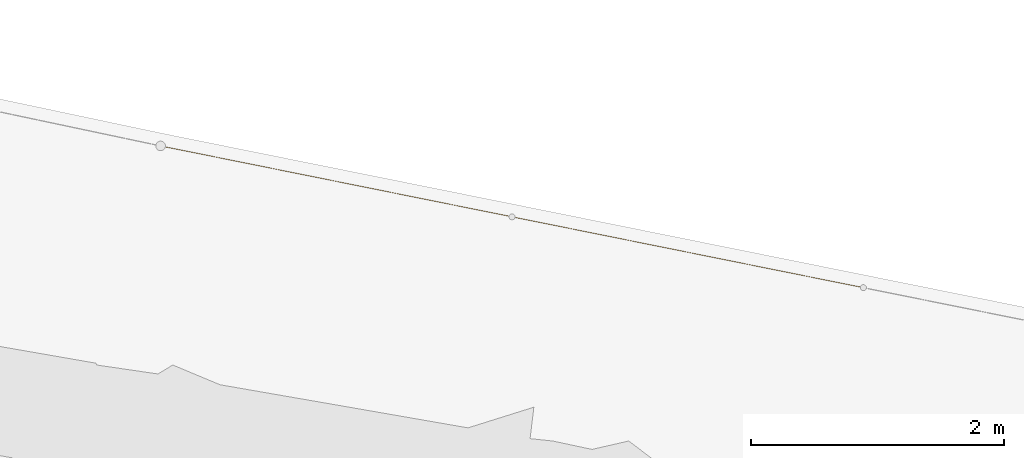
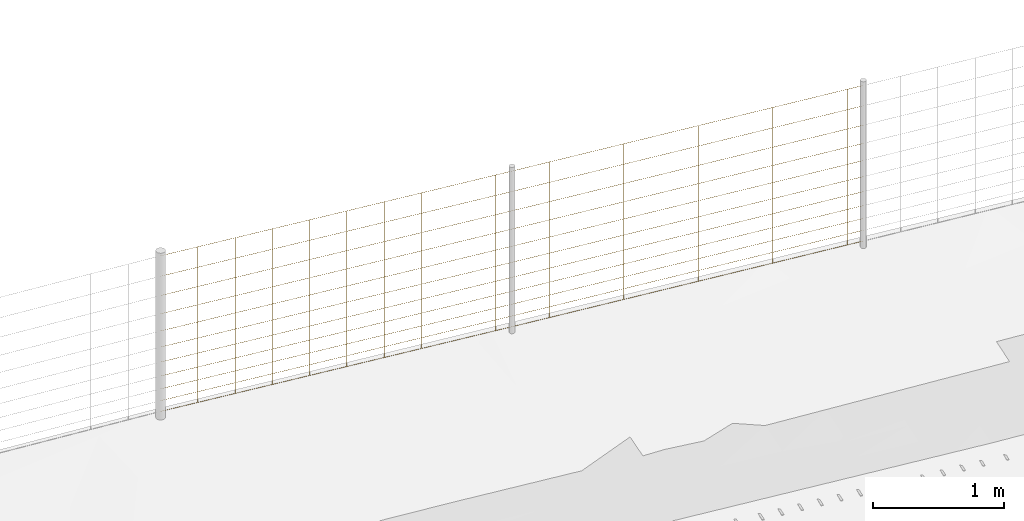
# Not in any storey, part 55 of 72: 2 railings.
"""IFC4 model written with IfcOpenShell, lengths in metres."""

import ifcopenshell
import ifcopenshell.guid

model = None  # the IFC model being written
_history = None  # IfcOwnerHistory: only IFC2X3 demands one
_inside = {}  # id of a spatial element -> (the spatial element, [elements in it])
_under = {}  # id of a project, library or spatial element -> (it, [spatial elements below it])
_declared = {}  # id of a project -> (the project, [libraries it declares])
_typed = {}  # id of a type object -> (the type object, [elements of that type])
_made_of = {}  # id of a material, layer set ... -> (it, [elements and type objects made of it])


def new_model(schema):
    """Start an empty IFC model of exactly this schema.

    Asked for "IFC4X3", IfcOpenShell would pick the latest addendum, in which some entities
    have other attributes; the version numbers below select the first issue.
    IFC2X3 requires an IfcOwnerHistory on every rooted entity: one is made here for all.
    """
    global model, _history
    if schema == "IFC4X3":
        model = ifcopenshell.file(schema_version=(4, 3, 0, 0))
    else:
        model = ifcopenshell.file(schema=schema)
    _inside.clear()
    _under.clear()
    _declared.clear()
    _typed.clear()
    _made_of.clear()
    _history = None
    if model.schema == "IFC2X3":
        org = make("IfcOrganization", Name="unknown")
        user = make(
            "IfcPersonAndOrganization",
            ThePerson=make("IfcPerson", FamilyName="unknown"),
            TheOrganization=org,
        )
        app = make(
            "IfcApplication",
            ApplicationDeveloper=org,
            Version="unknown",
            ApplicationFullName="unknown",
            ApplicationIdentifier="unknown",
        )
        _history = make(
            "IfcOwnerHistory",
            OwningUser=user,
            OwningApplication=app,
            ChangeAction="ADDED",
            CreationDate=0,
        )
    return model


def make(cls, **values):
    """One entity of the class cls with the attributes given. An attribute that is None is left unset."""
    return model.create_entity(
        cls, **{name: value for name, value in values.items() if value is not None}
    )


def rooted(cls, **values):
    """An entity with a GlobalId (a new one), such as an element, a storey or a relation."""
    return make(cls, GlobalId=ifcopenshell.guid.new(), OwnerHistory=_history, **values)


def si_unit(unit_type, name, prefix=None):
    """IfcSIUnit, for example si_unit("LENGTHUNIT", "METRE", prefix="MILLI")."""
    return make("IfcSIUnit", UnitType=unit_type, Prefix=prefix, Name=name)


def assignment(units):
    """IfcUnitAssignment: the units of a project."""
    return None if units is None else make("IfcUnitAssignment", Units=units)


def point(xyz):
    """IfcCartesianPoint."""
    return None if xyz is None else make("IfcCartesianPoint", Coordinates=xyz)


def direction(xyz):
    """IfcDirection."""
    return None if xyz is None else make("IfcDirection", DirectionRatios=xyz)


def frame(location, z_axis=None, x_axis=None):
    """IfcAxis2Placement3D, a coordinate frame: its origin and axes. An axis left out is left unset."""
    return make(
        "IfcAxis2Placement3D",
        Location=point(location),
        Axis=direction(z_axis),
        RefDirection=direction(x_axis),
    )


def origin_with_axes():
    """The frame at (0, 0, 0) with the z axis (0, 0, 1) and the x axis (1, 0, 0) written out."""
    return frame((0.0, 0.0, 0.0), z_axis=(0.0, 0.0, 1.0), x_axis=(1.0, 0.0, 0.0))


def place(relative_to, where):
    """IfcLocalPlacement: puts the frame where relative to a parent placement (None: the world)."""
    return make(
        "IfcLocalPlacement", PlacementRelTo=relative_to, RelativePlacement=where
    )


def context(
    kind, dimensions, precision=None, world=None, true_north=None, identifier=None
):
    """IfcGeometricRepresentationContext, for example the 3D "Model" context."""
    return make(
        "IfcGeometricRepresentationContext",
        ContextIdentifier=identifier,
        ContextType=kind,
        CoordinateSpaceDimension=dimensions,
        Precision=precision,
        WorldCoordinateSystem=world,
        TrueNorth=true_north,
    )


def subcontext(parent, identifier, kind, view, scale=None):
    """IfcGeometricRepresentationSubContext, for example "Body" below "Model"."""
    return make(
        "IfcGeometricRepresentationSubContext",
        ContextIdentifier=identifier,
        ContextType=kind,
        ParentContext=parent,
        TargetScale=scale,
        TargetView=view,
    )


def project(units=None, contexts=None):
    """IfcProject with its units and contexts."""
    return rooted(
        "IfcProject",
        Name="project",
        RepresentationContexts=contexts,
        UnitsInContext=assignment(units),
    )


def spatial(cls, under=None, at=None, **own):
    """A site, building, storey or space (cls), placed at a placement, below another one or the project."""
    s = rooted(cls, ObjectPlacement=at, **own)
    if under is not None:
        _under.setdefault(under.id(), (under, []))[1].append(s)
    return s


def point_list(points):
    """IfcCartesianPointList2D or 3D."""
    cls = (
        "IfcCartesianPointList2D" if len(points[0]) == 2 else "IfcCartesianPointList3D"
    )
    return make(cls, CoordList=points)


def polygons(points, faces, closed=None, point_numbers=None):
    """IfcPolygonalFaceSet: a face is its outer loop, then its inner loops; points numbered from 1."""
    made = []
    for loops in faces:
        if len(loops) == 1:
            made.append(make("IfcIndexedPolygonalFace", CoordIndex=loops[0]))
        else:
            made.append(
                make(
                    "IfcIndexedPolygonalFaceWithVoids",
                    CoordIndex=loops[0],
                    InnerCoordIndices=loops[1:],
                )
            )
    return make(
        "IfcPolygonalFaceSet",
        Coordinates=point_list(points),
        Closed=closed,
        Faces=made,
        PnIndex=point_numbers,
    )


def shape(context_of_items, identifier, shape_type, items):
    """IfcShapeRepresentation: the items that make up one representation, for example the "Body"."""
    return make(
        "IfcShapeRepresentation",
        ContextOfItems=context_of_items,
        RepresentationIdentifier=identifier,
        RepresentationType=shape_type,
        Items=items,
    )


def material(Name=None, Category=None):
    """IfcMaterial."""
    return make("IfcMaterial", Name=Name, Category=Category)


def made_of(thing, what):
    """Note that an element or type object is made of a material, layer set ...; save() writes the relation."""
    if what is not None:
        _made_of.setdefault(what.id(), (what, []))[1].append(thing)
    return thing


def element(
    cls,
    number,
    at=None,
    inside=None,
    cuts=None,
    type_object=None,
    material=None,
    context=None,
    identifier="Body",
    shape_type=None,
    held_by="IfcProductDefinitionShape",
    body=None,
    shapes=None,
    **own,
):
    """One element of the class cls, such as IfcWall. Its Tag is "e" and its number.

    at: its placement. inside: the storey or other place that contains it. cuts: it is an
    opening in that element (IfcRelVoidsElement). A single representation is given by context,
    identifier, shape_type and body (its items); several are given by shapes. held_by: the class
    of the entity that holds the representations. save() writes the other relations.
    """
    e = rooted(cls, Tag="e%d" % number, ObjectPlacement=at, **own)
    if body is not None:
        shapes = [shape(context, identifier, shape_type, body)]
    if shapes is not None:
        e.Representation = make(held_by, Representations=shapes)
    if inside is not None:
        _inside.setdefault(inside.id(), (inside, []))[1].append(e)
    if cuts is not None:
        rooted(
            "IfcRelVoidsElement", RelatingBuildingElement=cuts, RelatedOpeningElement=e
        )
    if type_object is not None:
        _typed.setdefault(type_object.id(), (type_object, []))[1].append(e)
    return made_of(e, material)


def aggregate(whole, parts):
    """IfcRelAggregates: a whole, such as a stair, and the parts it consists of."""
    return rooted("IfcRelAggregates", RelatingObject=whole, RelatedObjects=parts)


def save(model, path):
    """Write the relations noted so far, then the file.

    IfcRelAggregates (storeys below a building ...), IfcRelContainedInSpatialStructure (elements
    in a storey), IfcRelDefinesByType, IfcRelAssociatesMaterial and IfcRelDeclares: one each for
    every whole, place, type object, material and project.
    """
    for whole, parts in _under.values():
        aggregate(whole, parts)
    for where, things in _inside.values():
        rooted(
            "IfcRelContainedInSpatialStructure",
            RelatedElements=things,
            RelatingStructure=where,
        )
    for kind, things in _typed.values():
        rooted("IfcRelDefinesByType", RelatedObjects=things, RelatingType=kind)
    for what, things in _made_of.values():
        rooted("IfcRelAssociatesMaterial", RelatedObjects=things, RelatingMaterial=what)
    for by, libraries in _declared.values():
        rooted("IfcRelDeclares", RelatingContext=by, RelatedDefinitions=libraries)
    model.write(path)


model = new_model("IFC4")

# Units and contexts
model_context = context("Model", 3, precision=1e-05, world=origin_with_axes(), true_north=direction((0.0, 1.0)))
body_context = subcontext(model_context, "Body", "Model", "MODEL_VIEW")
ifc_project = project(units=[si_unit("VOLUMEUNIT", "CUBIC_METRE"), si_unit("LENGTHUNIT", "METRE"), si_unit("AREAUNIT", "SQUARE_METRE")], contexts=[model_context])

# Site
site_placement = place(None, origin_with_axes())
site = spatial("IfcSite", under=ifc_project, at=site_placement, Name="Lares · Rua das Mercês · artigo 4771")

# Railings
ifc_material = material(Name="Aço galvanizado / Stahl verzinkt", Category="steel")
railing_1_placement = place(site_placement, frame((0.0, 0.0, 0.0), z_axis=(0.0, 0.0, 1.0), x_axis=(1.0, -1.03767253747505e-17, 0.0)))
element("IfcRailing", 1, at=railing_1_placement, inside=site, material=ifc_material, Name="Vedação · rede ovelheira 1.075", ObjectType="SHEEP_WIRE_FENCE", PredefinedType="USERDEFINED", context=body_context, shape_type="Tessellation", body=[
    polygons([(65.1975724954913, 11.3689963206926, 15.7609887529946), (65.1979507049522, 11.3704502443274, 15.7594910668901), (65.1981656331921, 11.3719371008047, 15.7609887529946), (65.1977874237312, 11.3704831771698, 15.7624864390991), (67.9720573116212, 10.8093993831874, 15.9183816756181), (67.9724355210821, 10.8108533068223, 15.9168839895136), (67.972650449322, 10.8123401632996, 15.9183816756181), (67.9722722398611, 10.8108862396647, 15.9198793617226), (65.1975724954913, 11.3689963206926, 15.8609887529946), (65.1979507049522, 11.3704502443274, 15.8594910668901), (65.1981656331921, 11.3719371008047, 15.8609887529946), (65.1977874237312, 11.3704831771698, 15.8624864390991), (67.9720573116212, 10.8093993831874, 16.0183816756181), (67.9724355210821, 10.8108533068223, 16.0168839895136), (67.972650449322, 10.8123401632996, 16.0183816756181), (67.9722722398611, 10.8108862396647, 16.0198793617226), (65.1975724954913, 11.3689963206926, 15.9709887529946), (65.1979507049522, 11.3704502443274, 15.9694910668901), (65.1981656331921, 11.3719371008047, 15.9709887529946), (65.1977874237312, 11.3704831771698, 15.9724864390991), (67.9720573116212, 10.8093993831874, 16.1283816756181), (67.9724355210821, 10.8108533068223, 16.1268839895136), (67.972650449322, 10.8123401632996, 16.1283816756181), (67.9722722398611, 10.8108862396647, 16.1298793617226), (65.1975724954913, 11.3689963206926, 16.0909887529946), (65.1979507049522, 11.3704502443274, 16.0894910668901), (65.1981656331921, 11.3719371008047, 16.0909887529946), (65.1977874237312, 11.3704831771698, 16.0924864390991), (67.9720573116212, 10.8093993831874, 16.2483816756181), (67.9724355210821, 10.8108533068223, 16.2468839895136), (67.972650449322, 10.8123401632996, 16.2483816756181), (67.9722722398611, 10.8108862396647, 16.2498793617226), (65.1975724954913, 11.3689963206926, 16.2209887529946), (65.1979507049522, 11.3704502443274, 16.2194910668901), (65.1981656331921, 11.3719371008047, 16.2209887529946), (65.1977874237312, 11.3704831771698, 16.2224864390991), (67.9720573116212, 10.8093993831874, 16.3783816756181), (67.9724355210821, 10.8108533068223, 16.3768839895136), (67.972650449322, 10.8123401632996, 16.3783816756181), (67.9722722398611, 10.8108862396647, 16.3798793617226), (65.1975724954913, 11.3689963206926, 16.3609887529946), (65.1979507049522, 11.3704502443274, 16.3594910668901), (65.1981656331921, 11.3719371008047, 16.3609887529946), (65.1977874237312, 11.3704831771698, 16.3624864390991), (67.9720573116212, 10.8093993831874, 16.5183816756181), (67.9724355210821, 10.8108533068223, 16.5168839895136), (67.972650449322, 10.8123401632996, 16.5183816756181), (67.9722722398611, 10.8108862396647, 16.5198793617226), (65.1975724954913, 11.3689963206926, 16.5109887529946), (65.1979507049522, 11.3704502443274, 16.5094910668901), (65.1981656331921, 11.3719371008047, 16.5109887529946), (65.1977874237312, 11.3704831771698, 16.5124864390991), (67.9720573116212, 10.8093993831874, 16.6683816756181), (67.9724355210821, 10.8108533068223, 16.6668839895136), (67.972650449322, 10.8123401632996, 16.6683816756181), (67.9722722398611, 10.8108862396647, 16.6698793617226), (65.1975724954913, 11.3689963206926, 16.6709887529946), (65.1979507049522, 11.3704502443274, 16.6694910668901), (65.1981656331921, 11.3719371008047, 16.6709887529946), (65.1977874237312, 11.3704831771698, 16.6724864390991), (67.9720573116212, 10.8093993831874, 16.8283816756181), (67.9724355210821, 10.8108533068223, 16.8268839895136), (67.972650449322, 10.8123401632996, 16.8283816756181), (67.9722722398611, 10.8108862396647, 16.8298793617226), (65.1975724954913, 11.3689963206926, 16.8409887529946), (65.1979507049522, 11.3704502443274, 16.8394910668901), (65.1981656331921, 11.3719371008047, 16.8409887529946), (65.1977874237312, 11.3704831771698, 16.8424864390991), (67.9720573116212, 10.8093993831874, 16.9983816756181), (67.9724355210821, 10.8108533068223, 16.9968839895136), (67.972650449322, 10.8123401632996, 16.9983816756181), (67.9722722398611, 10.8108862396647, 16.9998793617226), (65.1975724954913, 11.3689963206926, 17.0209887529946), (65.1979507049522, 11.3704502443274, 17.0194910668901), (65.1981656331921, 11.3719371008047, 17.0209887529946), (65.1977874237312, 11.3704831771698, 17.0224864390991), (67.9720573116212, 10.8093993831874, 17.1783816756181), (67.9724355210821, 10.8108533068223, 17.1768839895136), (67.972650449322, 10.8123401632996, 17.1783816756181), (67.9722722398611, 10.8108862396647, 17.1798793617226), (65.1975724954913, 11.3689963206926, 17.2109887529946), (65.1979507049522, 11.3704502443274, 17.2094910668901), (65.1981656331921, 11.3719371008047, 17.2109887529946), (65.1977874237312, 11.3704831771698, 17.2124864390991), (67.9720573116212, 10.8093993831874, 17.3683816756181), (67.9724355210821, 10.8108533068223, 17.3668839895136), (67.972650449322, 10.8123401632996, 17.3683816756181), (67.9722722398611, 10.8108862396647, 17.3698793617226), (65.4919470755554, 11.3126529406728, 15.7776714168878), (65.4904470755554, 11.3111529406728, 15.7776714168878), (65.4919470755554, 11.3096529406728, 15.7776714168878), (65.4934470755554, 11.3111529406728, 15.7776714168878), (65.4919470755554, 11.3126529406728, 17.2276714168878), (65.4904470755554, 11.3111529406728, 17.2276714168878), (65.4919470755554, 11.3096529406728, 17.2276714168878), (65.4934470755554, 11.3111529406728, 17.2276714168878), (65.786025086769, 11.253339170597, 15.794354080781), (65.7845250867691, 11.251839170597, 15.794354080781), (65.786025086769, 11.250339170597, 15.794354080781), (65.787525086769, 11.251839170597, 15.794354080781), (65.786025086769, 11.253339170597, 17.244354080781), (65.7845250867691, 11.251839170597, 17.244354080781), (65.786025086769, 11.250339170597, 17.244354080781), (65.787525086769, 11.251839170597, 17.244354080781), (66.0801030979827, 11.1940254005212, 15.8110367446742), (66.0786030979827, 11.1925254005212, 15.8110367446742), (66.0801030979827, 11.1910254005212, 15.8110367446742), (66.0816030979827, 11.1925254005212, 15.8110367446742), (66.0801030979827, 11.1940254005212, 17.2610367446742), (66.0786030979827, 11.1925254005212, 17.2610367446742), (66.0801030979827, 11.1910254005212, 17.2610367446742), (66.0816030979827, 11.1925254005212, 17.2610367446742), (66.3741811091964, 11.1347116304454, 15.8277194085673), (66.3726811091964, 11.1332116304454, 15.8277194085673), (66.3741811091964, 11.1317116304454, 15.8277194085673), (66.3756811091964, 11.1332116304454, 15.8277194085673), (66.3741811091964, 11.1347116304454, 17.2777194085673), (66.3726811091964, 11.1332116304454, 17.2777194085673), (66.3741811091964, 11.1317116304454, 17.2777194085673), (66.3756811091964, 11.1332116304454, 17.2777194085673), (66.6682591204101, 11.0753978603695, 15.8444020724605), (66.6667591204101, 11.0738978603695, 15.8444020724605), (66.6682591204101, 11.0723978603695, 15.8444020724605), (66.6697591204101, 11.0738978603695, 15.8444020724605), (66.6682591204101, 11.0753978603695, 17.2944020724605), (66.6667591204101, 11.0738978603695, 17.2944020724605), (66.6682591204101, 11.0723978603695, 17.2944020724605), (66.6697591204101, 11.0738978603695, 17.2944020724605), (66.9623371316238, 11.0160840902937, 15.8610847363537), (66.9608371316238, 11.0145840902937, 15.8610847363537), (66.9623371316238, 11.0130840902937, 15.8610847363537), (66.9638371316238, 11.0145840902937, 15.8610847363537), (66.9623371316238, 11.0160840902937, 17.3110847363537), (66.9608371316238, 11.0145840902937, 17.3110847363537), (66.9623371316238, 11.0130840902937, 17.3110847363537), (66.9638371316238, 11.0145840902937, 17.3110847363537), (67.2564151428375, 10.9567703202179, 15.8777674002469), (67.2549151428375, 10.9552703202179, 15.8777674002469), (67.2564151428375, 10.9537703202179, 15.8777674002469), (67.2579151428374, 10.9552703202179, 15.8777674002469), (67.2564151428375, 10.9567703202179, 17.3277674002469), (67.2549151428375, 10.9552703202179, 17.3277674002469), (67.2564151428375, 10.9537703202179, 17.3277674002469), (67.2579151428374, 10.9552703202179, 17.3277674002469), (67.5504931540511, 10.8974565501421, 15.8944500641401), (67.5489931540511, 10.8959565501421, 15.8944500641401), (67.5504931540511, 10.8944565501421, 15.8944500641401), (67.5519931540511, 10.8959565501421, 15.8944500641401), (67.5504931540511, 10.8974565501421, 17.3444500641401), (67.5489931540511, 10.8959565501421, 17.3444500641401), (67.5504931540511, 10.8944565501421, 17.3444500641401), (67.5519931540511, 10.8959565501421, 17.3444500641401), (67.8445711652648, 10.8381427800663, 15.9111327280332), (67.8430711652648, 10.8366427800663, 15.9111327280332), (67.8445711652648, 10.8351427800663, 15.9111327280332), (67.8460711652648, 10.8366427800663, 15.9111327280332), (67.8445711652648, 10.8381427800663, 17.3611327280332), (67.8430711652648, 10.8366427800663, 17.3611327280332), (67.8445711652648, 10.8351427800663, 17.3611327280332), (67.8460711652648, 10.8366427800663, 17.3611327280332)], [[[4, 3, 2, 1]], [[5, 6, 7, 8]], [[1, 2, 6, 5]], [[2, 3, 7, 6]], [[3, 4, 8, 7]], [[4, 1, 5, 8]], [[12, 11, 10, 9]], [[13, 14, 15, 16]], [[9, 10, 14, 13]], [[10, 11, 15, 14]], [[11, 12, 16, 15]], [[12, 9, 13, 16]], [[20, 19, 18, 17]], [[21, 22, 23, 24]], [[17, 18, 22, 21]], [[18, 19, 23, 22]], [[19, 20, 24, 23]], [[20, 17, 21, 24]], [[28, 27, 26, 25]], [[29, 30, 31, 32]], [[25, 26, 30, 29]], [[26, 27, 31, 30]], [[27, 28, 32, 31]], [[28, 25, 29, 32]], [[36, 35, 34, 33]], [[37, 38, 39, 40]], [[33, 34, 38, 37]], [[34, 35, 39, 38]], [[35, 36, 40, 39]], [[36, 33, 37, 40]], [[44, 43, 42, 41]], [[45, 46, 47, 48]], [[41, 42, 46, 45]], [[42, 43, 47, 46]], [[43, 44, 48, 47]], [[44, 41, 45, 48]], [[52, 51, 50, 49]], [[53, 54, 55, 56]], [[49, 50, 54, 53]], [[50, 51, 55, 54]], [[51, 52, 56, 55]], [[52, 49, 53, 56]], [[60, 59, 58, 57]], [[61, 62, 63, 64]], [[57, 58, 62, 61]], [[58, 59, 63, 62]], [[59, 60, 64, 63]], [[60, 57, 61, 64]], [[68, 67, 66, 65]], [[69, 70, 71, 72]], [[65, 66, 70, 69]], [[66, 67, 71, 70]], [[67, 68, 72, 71]], [[68, 65, 69, 72]], [[76, 75, 74, 73]], [[77, 78, 79, 80]], [[73, 74, 78, 77]], [[74, 75, 79, 78]], [[75, 76, 80, 79]], [[76, 73, 77, 80]], [[84, 83, 82, 81]], [[85, 86, 87, 88]], [[81, 82, 86, 85]], [[82, 83, 87, 86]], [[83, 84, 88, 87]], [[84, 81, 85, 88]], [[92, 91, 90, 89]], [[93, 94, 95, 96]], [[89, 90, 94, 93]], [[90, 91, 95, 94]], [[91, 92, 96, 95]], [[92, 89, 93, 96]], [[100, 99, 98, 97]], [[101, 102, 103, 104]], [[97, 98, 102, 101]], [[98, 99, 103, 102]], [[99, 100, 104, 103]], [[100, 97, 101, 104]], [[108, 107, 106, 105]], [[109, 110, 111, 112]], [[105, 106, 110, 109]], [[106, 107, 111, 110]], [[107, 108, 112, 111]], [[108, 105, 109, 112]], [[116, 115, 114, 113]], [[117, 118, 119, 120]], [[113, 114, 118, 117]], [[114, 115, 119, 118]], [[115, 116, 120, 119]], [[116, 113, 117, 120]], [[124, 123, 122, 121]], [[125, 126, 127, 128]], [[121, 122, 126, 125]], [[122, 123, 127, 126]], [[123, 124, 128, 127]], [[124, 121, 125, 128]], [[132, 131, 130, 129]], [[133, 134, 135, 136]], [[129, 130, 134, 133]], [[130, 131, 135, 134]], [[131, 132, 136, 135]], [[132, 129, 133, 136]], [[140, 139, 138, 137]], [[141, 142, 143, 144]], [[137, 138, 142, 141]], [[138, 139, 143, 142]], [[139, 140, 144, 143]], [[140, 137, 141, 144]], [[148, 147, 146, 145]], [[149, 150, 151, 152]], [[145, 146, 150, 149]], [[146, 147, 151, 150]], [[147, 148, 152, 151]], [[148, 145, 149, 152]], [[156, 155, 154, 153]], [[157, 158, 159, 160]], [[153, 154, 158, 157]], [[154, 155, 159, 158]], [[155, 156, 160, 159]], [[156, 153, 157, 160]]]),
])
railing_2_placement = place(site_placement, frame((0.0, 0.0, 0.0), z_axis=(0.0, 0.0, 1.0), x_axis=(1.0, -1.03767253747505e-17, 0.0)))
element("IfcRailing", 2, at=railing_2_placement, inside=site, material=ifc_material, Name="Vedação · rede ovelheira 1.076", ObjectType="SHEEP_WIRE_FENCE", PredefinedType="USERDEFINED", context=body_context, shape_type="Tessellation", body=[
    polygons([(67.9720573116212, 10.8093993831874, 15.9183816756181), (67.9724403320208, 10.8108523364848, 15.9168842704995), (67.972650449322, 10.8123401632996, 15.9183816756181), (67.9722674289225, 10.8108872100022, 15.9198790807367), (70.7465421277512, 10.2498024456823, 16.0850807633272), (70.7469251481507, 10.2512553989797, 16.0835833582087), (70.7471352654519, 10.2527432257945, 16.0850807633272), (70.7467522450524, 10.251290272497, 16.0865781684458), (67.9720573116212, 10.8093993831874, 16.0183816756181), (67.9724403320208, 10.8108523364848, 16.0168842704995), (67.972650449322, 10.8123401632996, 16.0183816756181), (67.9722674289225, 10.8108872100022, 16.0198790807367), (70.7465421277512, 10.2498024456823, 16.1850807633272), (70.7469251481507, 10.2512553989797, 16.1835833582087), (70.7471352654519, 10.2527432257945, 16.1850807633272), (70.7467522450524, 10.251290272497, 16.1865781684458), (67.9720573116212, 10.8093993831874, 16.1283816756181), (67.9724403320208, 10.8108523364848, 16.1268842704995), (67.972650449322, 10.8123401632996, 16.1283816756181), (67.9722674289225, 10.8108872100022, 16.1298790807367), (70.7465421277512, 10.2498024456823, 16.2950807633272), (70.7469251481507, 10.2512553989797, 16.2935833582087), (70.7471352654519, 10.2527432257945, 16.2950807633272), (70.7467522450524, 10.251290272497, 16.2965781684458), (67.9720573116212, 10.8093993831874, 16.2483816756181), (67.9724403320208, 10.8108523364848, 16.2468842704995), (67.972650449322, 10.8123401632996, 16.2483816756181), (67.9722674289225, 10.8108872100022, 16.2498790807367), (70.7465421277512, 10.2498024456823, 16.4150807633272), (70.7469251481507, 10.2512553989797, 16.4135833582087), (70.7471352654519, 10.2527432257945, 16.4150807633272), (70.7467522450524, 10.251290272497, 16.4165781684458), (67.9720573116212, 10.8093993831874, 16.3783816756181), (67.9724403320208, 10.8108523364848, 16.3768842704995), (67.972650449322, 10.8123401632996, 16.3783816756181), (67.9722674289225, 10.8108872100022, 16.3798790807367), (70.7465421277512, 10.2498024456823, 16.5450807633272), (70.7469251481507, 10.2512553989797, 16.5435833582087), (70.7471352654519, 10.2527432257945, 16.5450807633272), (70.7467522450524, 10.251290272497, 16.5465781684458), (67.9720573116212, 10.8093993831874, 16.5183816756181), (67.9724403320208, 10.8108523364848, 16.5168842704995), (67.972650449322, 10.8123401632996, 16.5183816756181), (67.9722674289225, 10.8108872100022, 16.5198790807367), (70.7465421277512, 10.2498024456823, 16.6850807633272), (70.7469251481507, 10.2512553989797, 16.6835833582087), (70.7471352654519, 10.2527432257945, 16.6850807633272), (70.7467522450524, 10.251290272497, 16.6865781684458), (67.9720573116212, 10.8093993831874, 16.6683816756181), (67.9724403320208, 10.8108523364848, 16.6668842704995), (67.972650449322, 10.8123401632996, 16.6683816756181), (67.9722674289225, 10.8108872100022, 16.6698790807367), (70.7465421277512, 10.2498024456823, 16.8350807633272), (70.7469251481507, 10.2512553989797, 16.8335833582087), (70.7471352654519, 10.2527432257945, 16.8350807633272), (70.7467522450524, 10.251290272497, 16.8365781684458), (67.9720573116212, 10.8093993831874, 16.8283816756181), (67.9724403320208, 10.8108523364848, 16.8268842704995), (67.972650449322, 10.8123401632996, 16.8283816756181), (67.9722674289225, 10.8108872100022, 16.8298790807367), (70.7465421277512, 10.2498024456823, 16.9950807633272), (70.7469251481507, 10.2512553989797, 16.9935833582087), (70.7471352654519, 10.2527432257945, 16.9950807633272), (70.7467522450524, 10.251290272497, 16.9965781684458), (67.9720573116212, 10.8093993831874, 16.9983816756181), (67.9724403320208, 10.8108523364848, 16.9968842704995), (67.972650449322, 10.8123401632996, 16.9983816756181), (67.9722674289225, 10.8108872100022, 16.9998790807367), (70.7465421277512, 10.2498024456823, 17.1650807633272), (70.7469251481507, 10.2512553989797, 17.1635833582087), (70.7471352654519, 10.2527432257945, 17.1650807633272), (70.7467522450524, 10.251290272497, 17.1665781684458), (67.9720573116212, 10.8093993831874, 17.1783816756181), (67.9724403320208, 10.8108523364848, 17.1768842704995), (67.972650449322, 10.8123401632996, 17.1783816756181), (67.9722674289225, 10.8108872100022, 17.1798790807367), (70.7465421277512, 10.2498024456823, 17.3450807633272), (70.7469251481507, 10.2512553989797, 17.3435833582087), (70.7471352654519, 10.2527432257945, 17.3450807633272), (70.7467522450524, 10.251290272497, 17.3465781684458), (67.9720573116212, 10.8093993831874, 17.3683816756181), (67.9724403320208, 10.8108523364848, 17.3668842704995), (67.972650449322, 10.8123401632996, 17.3683816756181), (67.9722674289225, 10.8108872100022, 17.3698790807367), (70.7465421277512, 10.2498024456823, 17.5350807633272), (70.7469251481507, 10.2512553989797, 17.5335833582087), (70.7471352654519, 10.2527432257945, 17.5350807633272), (70.7467522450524, 10.251290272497, 17.5365781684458), (68.2664318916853, 10.7530560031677, 15.9360507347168), (68.2649318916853, 10.7515560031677, 15.9360507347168), (68.2664318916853, 10.7500560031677, 15.9360507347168), (68.2679318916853, 10.7515560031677, 15.9360507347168), (68.2664318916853, 10.7530560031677, 17.3860507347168), (68.2649318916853, 10.7515560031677, 17.3860507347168), (68.2664318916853, 10.7500560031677, 17.3860507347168), (68.2679318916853, 10.7515560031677, 17.3860507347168), (68.560509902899, 10.6937422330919, 15.9537197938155), (68.559009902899, 10.6922422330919, 15.9537197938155), (68.560509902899, 10.6907422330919, 15.9537197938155), (68.562009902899, 10.6922422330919, 15.9537197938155), (68.560509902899, 10.6937422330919, 17.4037197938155), (68.559009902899, 10.6922422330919, 17.4037197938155), (68.560509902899, 10.6907422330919, 17.4037197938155), (68.562009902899, 10.6922422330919, 17.4037197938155), (68.8545879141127, 10.6344284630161, 15.9713888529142), (68.8530879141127, 10.6329284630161, 15.9713888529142), (68.8545879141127, 10.6314284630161, 15.9713888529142), (68.8560879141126, 10.6329284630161, 15.9713888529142), (68.8545879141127, 10.6344284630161, 17.4213888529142), (68.8530879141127, 10.6329284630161, 17.4213888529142), (68.8545879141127, 10.6314284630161, 17.4213888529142), (68.8560879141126, 10.6329284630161, 17.4213888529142), (69.1486659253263, 10.5751146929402, 15.9890579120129), (69.1471659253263, 10.5736146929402, 15.9890579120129), (69.1486659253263, 10.5721146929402, 15.9890579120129), (69.1501659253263, 10.5736146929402, 15.9890579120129), (69.1486659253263, 10.5751146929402, 17.4390579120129), (69.1471659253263, 10.5736146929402, 17.4390579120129), (69.1486659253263, 10.5721146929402, 17.4390579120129), (69.1501659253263, 10.5736146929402, 17.4390579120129), (69.44274393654, 10.5158009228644, 16.0067269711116), (69.44124393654, 10.5143009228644, 16.0067269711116), (69.44274393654, 10.5128009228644, 16.0067269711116), (69.44424393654, 10.5143009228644, 16.0067269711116), (69.44274393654, 10.5158009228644, 17.4567269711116), (69.44124393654, 10.5143009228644, 17.4567269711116), (69.44274393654, 10.5128009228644, 17.4567269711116), (69.44424393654, 10.5143009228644, 17.4567269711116), (69.7368219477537, 10.4564871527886, 16.0243960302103), (69.7353219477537, 10.4549871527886, 16.0243960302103), (69.7368219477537, 10.4534871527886, 16.0243960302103), (69.7383219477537, 10.4549871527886, 16.0243960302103), (69.7368219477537, 10.4564871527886, 17.4743960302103), (69.7353219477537, 10.4549871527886, 17.4743960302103), (69.7368219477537, 10.4534871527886, 17.4743960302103), (69.7383219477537, 10.4549871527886, 17.4743960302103), (70.0308999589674, 10.3971733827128, 16.042065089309), (70.0293999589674, 10.3956733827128, 16.042065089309), (70.0308999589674, 10.3941733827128, 16.042065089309), (70.0323999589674, 10.3956733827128, 16.042065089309), (70.0308999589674, 10.3971733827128, 17.492065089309), (70.0293999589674, 10.3956733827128, 17.492065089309), (70.0308999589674, 10.3941733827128, 17.492065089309), (70.0323999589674, 10.3956733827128, 17.492065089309), (70.3249779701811, 10.337859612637, 16.0597341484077), (70.3234779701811, 10.336359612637, 16.0597341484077), (70.3249779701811, 10.334859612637, 16.0597341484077), (70.326477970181, 10.336359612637, 16.0597341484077), (70.3249779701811, 10.337859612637, 17.5097341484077), (70.3234779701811, 10.336359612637, 17.5097341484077), (70.3249779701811, 10.334859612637, 17.5097341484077), (70.326477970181, 10.336359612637, 17.5097341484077), (70.6190559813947, 10.2785458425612, 16.0774032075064), (70.6175559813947, 10.2770458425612, 16.0774032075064), (70.6190559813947, 10.2755458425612, 16.0774032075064), (70.6205559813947, 10.2770458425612, 16.0774032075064), (70.6190559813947, 10.2785458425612, 17.5274032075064), (70.6175559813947, 10.2770458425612, 17.5274032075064), (70.6190559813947, 10.2755458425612, 17.5274032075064), (70.6205559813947, 10.2770458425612, 17.5274032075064)], [[[4, 3, 2, 1]], [[5, 6, 7, 8]], [[1, 2, 6, 5]], [[2, 3, 7, 6]], [[3, 4, 8, 7]], [[4, 1, 5, 8]], [[12, 11, 10, 9]], [[13, 14, 15, 16]], [[9, 10, 14, 13]], [[10, 11, 15, 14]], [[11, 12, 16, 15]], [[12, 9, 13, 16]], [[20, 19, 18, 17]], [[21, 22, 23, 24]], [[17, 18, 22, 21]], [[18, 19, 23, 22]], [[19, 20, 24, 23]], [[20, 17, 21, 24]], [[28, 27, 26, 25]], [[29, 30, 31, 32]], [[25, 26, 30, 29]], [[26, 27, 31, 30]], [[27, 28, 32, 31]], [[28, 25, 29, 32]], [[36, 35, 34, 33]], [[37, 38, 39, 40]], [[33, 34, 38, 37]], [[34, 35, 39, 38]], [[35, 36, 40, 39]], [[36, 33, 37, 40]], [[44, 43, 42, 41]], [[45, 46, 47, 48]], [[41, 42, 46, 45]], [[42, 43, 47, 46]], [[43, 44, 48, 47]], [[44, 41, 45, 48]], [[52, 51, 50, 49]], [[53, 54, 55, 56]], [[49, 50, 54, 53]], [[50, 51, 55, 54]], [[51, 52, 56, 55]], [[52, 49, 53, 56]], [[60, 59, 58, 57]], [[61, 62, 63, 64]], [[57, 58, 62, 61]], [[58, 59, 63, 62]], [[59, 60, 64, 63]], [[60, 57, 61, 64]], [[68, 67, 66, 65]], [[69, 70, 71, 72]], [[65, 66, 70, 69]], [[66, 67, 71, 70]], [[67, 68, 72, 71]], [[68, 65, 69, 72]], [[76, 75, 74, 73]], [[77, 78, 79, 80]], [[73, 74, 78, 77]], [[74, 75, 79, 78]], [[75, 76, 80, 79]], [[76, 73, 77, 80]], [[84, 83, 82, 81]], [[85, 86, 87, 88]], [[81, 82, 86, 85]], [[82, 83, 87, 86]], [[83, 84, 88, 87]], [[84, 81, 85, 88]], [[92, 91, 90, 89]], [[93, 94, 95, 96]], [[89, 90, 94, 93]], [[90, 91, 95, 94]], [[91, 92, 96, 95]], [[92, 89, 93, 96]], [[100, 99, 98, 97]], [[101, 102, 103, 104]], [[97, 98, 102, 101]], [[98, 99, 103, 102]], [[99, 100, 104, 103]], [[100, 97, 101, 104]], [[108, 107, 106, 105]], [[109, 110, 111, 112]], [[105, 106, 110, 109]], [[106, 107, 111, 110]], [[107, 108, 112, 111]], [[108, 105, 109, 112]], [[116, 115, 114, 113]], [[117, 118, 119, 120]], [[113, 114, 118, 117]], [[114, 115, 119, 118]], [[115, 116, 120, 119]], [[116, 113, 117, 120]], [[124, 123, 122, 121]], [[125, 126, 127, 128]], [[121, 122, 126, 125]], [[122, 123, 127, 126]], [[123, 124, 128, 127]], [[124, 121, 125, 128]], [[132, 131, 130, 129]], [[133, 134, 135, 136]], [[129, 130, 134, 133]], [[130, 131, 135, 134]], [[131, 132, 136, 135]], [[132, 129, 133, 136]], [[140, 139, 138, 137]], [[141, 142, 143, 144]], [[137, 138, 142, 141]], [[138, 139, 143, 142]], [[139, 140, 144, 143]], [[140, 137, 141, 144]], [[148, 147, 146, 145]], [[149, 150, 151, 152]], [[145, 146, 150, 149]], [[146, 147, 151, 150]], [[147, 148, 152, 151]], [[148, 145, 149, 152]], [[156, 155, 154, 153]], [[157, 158, 159, 160]], [[153, 154, 158, 157]], [[154, 155, 159, 158]], [[155, 156, 160, 159]], [[156, 153, 157, 160]]]),
])

save(model, "model.ifc")
